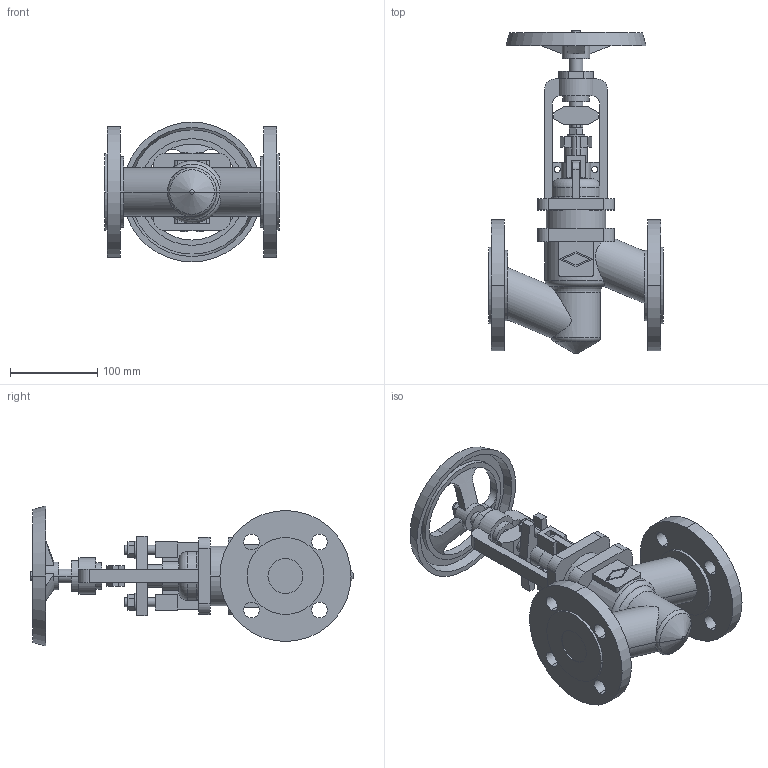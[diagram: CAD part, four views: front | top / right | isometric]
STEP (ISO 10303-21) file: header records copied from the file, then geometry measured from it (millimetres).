
FILE_DESCRIPTION(('OneSpaceDesigner STEP Export'),'2;1');
FILE_NAME('c000004288.stp','2010-05-05T10:29:18',(''),(''),'OneSpace Designer STEP processor for AP214 (Solid Model)','OneSpace Modeling 15.50B 03-Nov-2007 (C) CoCreate Software GmbH','');
FILE_SCHEMA(('AUTOMOTIVE_DESIGN { 1 0 10303 214 1 1 1 1 }'));
Length unit declared in the file: millimetre
Products named in the file (1): 1
Bounding box: 200 x 369.9 x 160 mm (x, y, z)
Volume: 1884182.8 mm3; surface area: 256633 mm2
Topology: 1 solids, 1 shells, 308 faces, 806 edges, 528 vertices
Faces by surface type: plane 153, cylinder 119, cone 20, torus 14, sphere 2
Entity records: 12179 total; most frequent: CARTESIAN_POINT 2556, ORIENTED_EDGE 1612, DIRECTION 1325, EDGE_CURVE 806, VERTEX_POINT 528, VECTOR 447, LINE 447, AXIS2_PLACEMENT_3D 439
